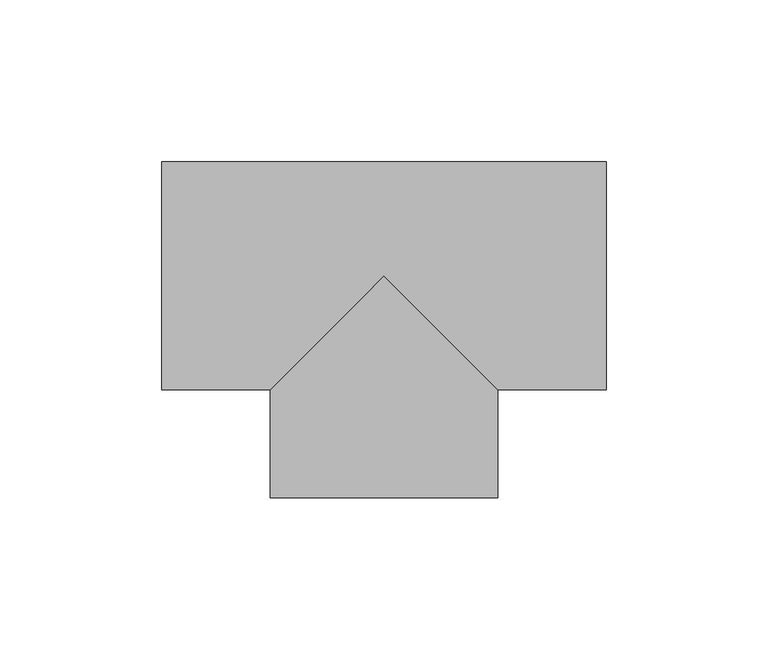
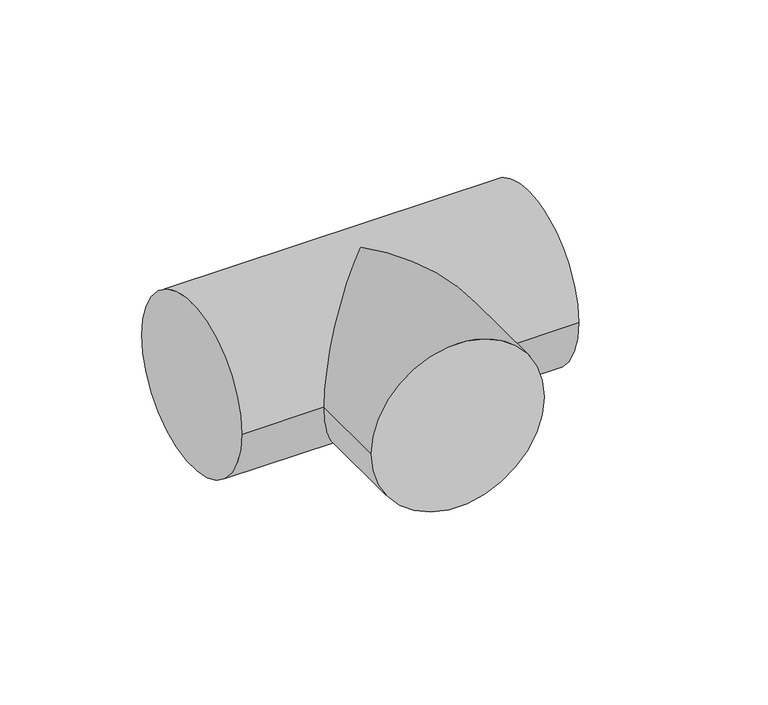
"""IFC4 building model written with IfcOpenShell, lengths in millimetres: pipe fitting geometry, M_Te - PVC - Serie 40 : Estándar."""

from ifc_helpers import new_model, si_unit, frame, origin, place, context, project, spatial, circle_curve, ellipse_curve, source, transform, mapped, element, save
from ifc_brep_helpers import plane_surface, cylinder_surface, advanced_brep


def pipe_fitting_be15212e(model_context):
    return source(origin(), model_context, "Body", "AdvancedBrep", [
        advanced_brep(
        [(-68.5601562, -35.1889219, 0.0), (-68.5601562, 35.1889219, 0.0), (68.5601563, -35.1889219, 0.0), (68.5601563, 35.1889219, 0.0), (-35.1889219, -35.1889219, 0.0), (0.0, 0.0, 35.1889219), (35.1889219, -35.1889219, 0.0), (0.0, 0.0, -35.1889219), (-35.1889219, -68.5601563, 0.0), (35.1889219, -68.5601563, 0.0)],
        [
            (0, 1, circle_curve(frame((-68.5601562, 0.0, 0.0), z_axis=(-1.0, 0.0, 0.0), x_axis=(0.0, 1.0, 0.0)), 35.1889219)),
            (1, 0, circle_curve(frame((-68.5601562, 0.0, 0.0), z_axis=(-1.0, 0.0, 0.0), x_axis=(0.0, 1.0, 0.0)), 35.1889219)),
            (2, 3, circle_curve(frame((68.5601563, 0.0, 0.0), z_axis=(1.0, 0.0, 0.0), x_axis=(0.0, 1.0, 0.0)), 35.1889219)),
            (3, 2, circle_curve(frame((68.5601563, 0.0, 0.0), z_axis=(1.0, 0.0, 0.0), x_axis=(0.0, 1.0, 0.0)), 35.1889219)),
            (0, 4),
            (4, 5, ellipse_curve(frame((0.0, 0.0, 0.0), z_axis=(-0.7071067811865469, 0.7071067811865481, 0.0), x_axis=(-0.707106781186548, -0.7071067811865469, 0.0)), 49.7646506, 35.1889219)),
            (5, 6, ellipse_curve(frame((0.0, 0.0, 0.0), z_axis=(0.707106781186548, 0.7071067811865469, 0.0), x_axis=(-0.707106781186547, 0.707106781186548, 0.0)), 49.7646506, 35.1889219)),
            (6, 2),
            (3, 1),
            (6, 7, ellipse_curve(frame((0.0, 0.0, 0.0), z_axis=(0.707106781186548, 0.7071067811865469, 0.0), x_axis=(-0.707106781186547, 0.707106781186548, 0.0)), 49.7646506, 35.1889219)),
            (7, 4, ellipse_curve(frame((0.0, 0.0, 0.0), z_axis=(-0.7071067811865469, 0.7071067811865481, 0.0), x_axis=(-0.707106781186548, -0.7071067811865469, 0.0)), 49.7646506, 35.1889219)),
            (8, 9, circle_curve(frame((0.0, -68.5601563, 0.0), z_axis=(0.0, -1.0, 0.0), x_axis=(1.0, 0.0, 0.0)), 35.1889219)),
            (9, 8, circle_curve(frame((0.0, -68.5601563, 0.0), z_axis=(0.0, -1.0, 0.0), x_axis=(1.0, 0.0, 0.0)), 35.1889219)),
            (9, 6),
            (4, 8),
        ],
        [
            plane_surface(frame((-68.5601562, 0.0, 0.0), z_axis=(-1.0, 0.0, 0.0), x_axis=(0.0, 0.0, 1.0))),
            plane_surface(frame((68.5601563, 0.0, 0.0), z_axis=(1.0, 0.0, 0.0), x_axis=(0.0, 0.0, 1.0))),
            cylinder_surface(frame((-68.5601562, 0.0, 0.0), z_axis=(-1.0, 0.0, 0.0), x_axis=(0.0, 1.0, 0.0)), 35.1889219),
            plane_surface(frame((0.0, -68.5601563, 0.0), z_axis=(0.0, -1.0, 0.0), x_axis=(0.0, 0.0, 1.0))),
            cylinder_surface(frame((0.0, 0.0, 0.0), z_axis=(0.0, 1.0, 0.0), x_axis=(1.0, 0.0, 0.0)), 35.1889219),
        ],
        [
            (0, [[1, 2]]),
            (1, [[3, 4]]),
            (2, [[-1, 5, 6, 7, 8, -4, 9]]),
            (2, [[-2, -9, -3, -8, 10, 11, -5]]),
            (3, [[12, 13]]),
            (4, [[-13, 14, -7, -6, 15]]),
            (4, [[-12, -15, -11, -10, -14]]),
        ],
    ),
    ])


if __name__ == "__main__":
    model = new_model("IFC4")
    model_context = context("Model", 3, world=origin())
    ifc_project = project(units=[si_unit("LENGTHUNIT", "METRE", prefix="MILLI")], contexts=[model_context])
    site = spatial("IfcSite", under=ifc_project)
    building = spatial("IfcBuilding", under=site)
    placement = place(None, origin())
    pipe_fitting_shape = pipe_fitting_be15212e(model_context)
    element("IfcPipeFitting", 1, ObjectType="M_Te - PVC - Serie 40 : Estándar", at=placement, inside=building, context=model_context, shape_type="MappedRepresentation", body=[
        mapped(pipe_fitting_shape, transform((0.0, 0.0, 0.0), x_axis=(1.0, 0.0, 0.0), y_axis=(0.0, 1.0, 0.0), z_axis=(0.0, 0.0, 1.0))),
    ])
    save(model, "model.ifc")
